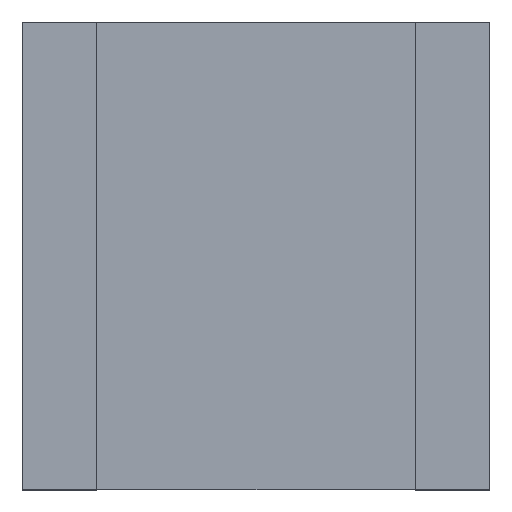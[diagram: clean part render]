
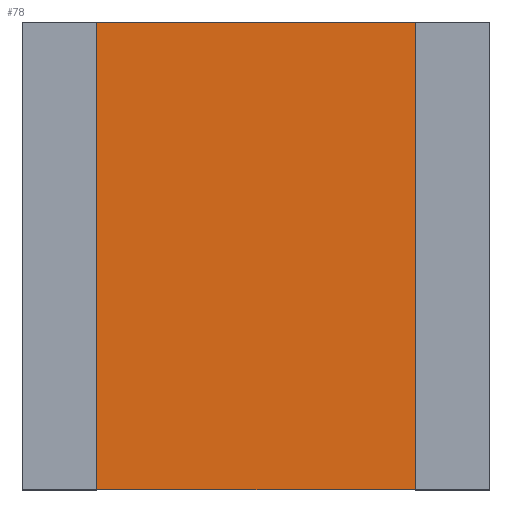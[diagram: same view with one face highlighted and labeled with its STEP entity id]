
A CAD part, top view. The second image highlights one B-rep face of the part: STEP entity #78.
In plain terms, the highlighted planar face has unit normal (0, 0, 1).
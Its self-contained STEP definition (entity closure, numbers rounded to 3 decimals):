
#78=ADVANCED_FACE('',(#312),#314,.T.);
#312=FACE_BOUND('',#313,.T.);
#313=EDGE_LOOP('',(#494,#495,#496,#497));
#314=PLANE('',#315);
#315=AXIS2_PLACEMENT_3D('',#316,#317,#318);
#316=CARTESIAN_POINT('',(-0.575,-0.625,0.3));
#317=DIRECTION('',(0.,0.,1.));
#318=DIRECTION('',(1.,0.,0.));
#494=ORIENTED_EDGE('',*,*,#614,.T.);
#495=ORIENTED_EDGE('',*,*,#615,.T.);
#496=ORIENTED_EDGE('',*,*,#616,.F.);
#497=ORIENTED_EDGE('',*,*,#617,.F.);
#614=EDGE_CURVE('',#674,#675,#676,.T.);
#615=EDGE_CURVE('',#675,#677,#678,.T.);
#616=EDGE_CURVE('',#679,#677,#680,.T.);
#617=EDGE_CURVE('',#674,#679,#681,.T.);
#674=VERTEX_POINT('',#774);
#675=VERTEX_POINT('',#775);
#676=LINE('',#776,#777);
#677=VERTEX_POINT('',#779);
#678=LINE('',#780,#781);
#679=VERTEX_POINT('',#783);
#680=LINE('',#784,#785);
#681=LINE('',#787,#788);
#774=CARTESIAN_POINT('',(-0.575,-0.625,0.3));
#775=CARTESIAN_POINT('',(0.575,-0.625,0.3));
#776=CARTESIAN_POINT('',(-0.575,-0.625,0.3));
#777=VECTOR('',#778,1.);
#778=DIRECTION('',(1.,0.,0.));
#779=CARTESIAN_POINT('',(0.575,0.625,0.3));
#780=CARTESIAN_POINT('',(0.575,-0.625,0.3));
#781=VECTOR('',#782,1.);
#782=DIRECTION('',(0.,1.,0.));
#783=CARTESIAN_POINT('',(-0.575,0.625,0.3));
#784=CARTESIAN_POINT('',(-0.575,0.625,0.3));
#785=VECTOR('',#786,1.);
#786=DIRECTION('',(1.,0.,0.));
#787=CARTESIAN_POINT('',(-0.575,-0.625,0.3));
#788=VECTOR('',#789,1.);
#789=DIRECTION('',(0.,1.,0.));
